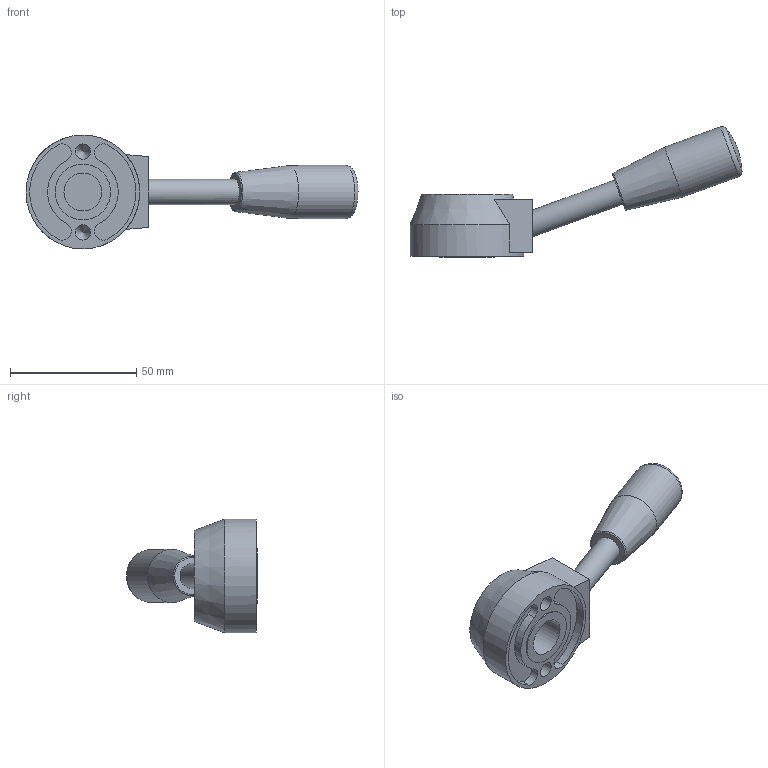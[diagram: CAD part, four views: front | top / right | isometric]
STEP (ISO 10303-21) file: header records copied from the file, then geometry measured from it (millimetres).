
FILE_DESCRIPTION( ( 'STEP AP203' ), '1' );
FILE_NAME( 'C:/Temp/Ganter_Step_05_03_2020/data/2_1/gn_512/gn_512_b/Control lever GN 512-45-B15.stp', '2020-03-05T11:51:37', ( 'License CC BY-ND 4.0' ), ( 'CADENAS' ), ' ', 'PARTsolutions', ' ' );
FILE_SCHEMA( ( 'CONFIG_CONTROL_DESIGN' ) );
Length unit declared in the file: millimetre
Products named in the file (1): _Control lever GN 512-45-B15
Bounding box: 131.34 x 51.82 x 45 mm (x, y, z)
Volume: 49979.4 mm3; surface area: 13643.9 mm2
Topology: 1 solids, 1 shells, 36 faces, 80 edges, 52 vertices
Faces by surface type: cylinder 16, plane 13, cone 4, torus 2, sphere 1
Full cylindrical faces by diameter (mm): 6 x2, 10 x1, 15 x1, 21 x1, 22 x1, 25 x1, 45 x1
Entity records: 938 total; most frequent: DIRECTION 168, CARTESIAN_POINT 157, ORIENTED_EDGE 116, AXIS2_PLACEMENT_3D 75, EDGE_CURVE 58, EDGE_LOOP 57, VERTEX_POINT 48, FACE_OUTER_BOUND 46
